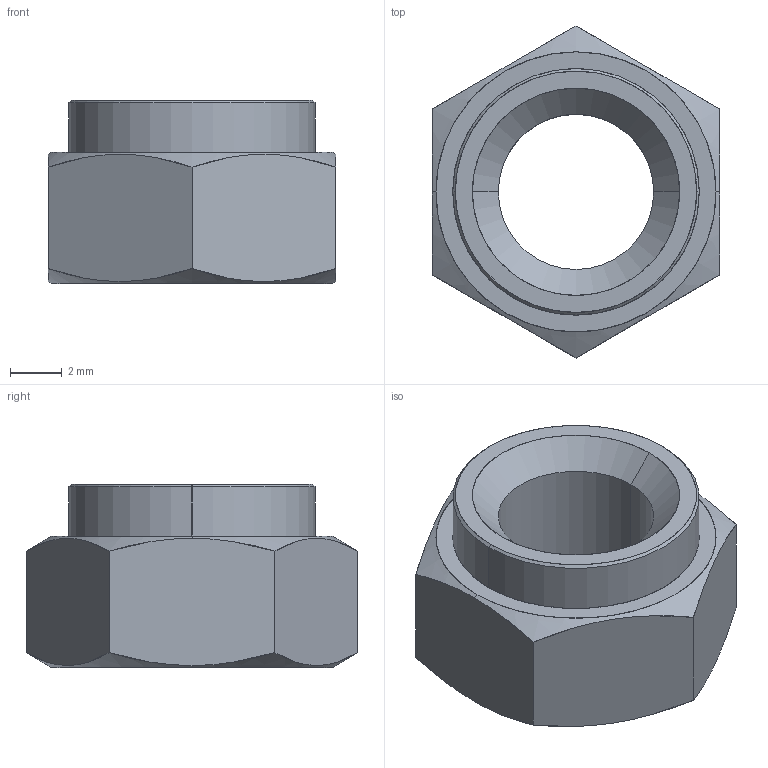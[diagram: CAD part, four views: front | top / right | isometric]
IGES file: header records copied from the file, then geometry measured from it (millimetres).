
Start section: SolidWorks IGES file using analytic representation for surfaces
Global section: file name: C:\Users\liam_\OneDrive\Desktop\Work\Mat Davis Pending 20181125\automotion\P SERIES\P0827.ZP_v2\P0827.ZP_v2_20181231_IGES\P0827.060-16G-ZP.igs; native system: SolidWorks 2017; preprocessor: SolidWorks 2017; author: liam_; date: 181231.110734; units: millimetre
Bounding box: 11.1 x 12.82 x 7.08 mm (x, y, z)
Surface area: 509.4 mm2 (no closed solid volume)
Topology: 0 solids, 0 shells, 23 faces, 400 edges, 400 vertices
Faces by surface type: revolution 14, bspline 9
